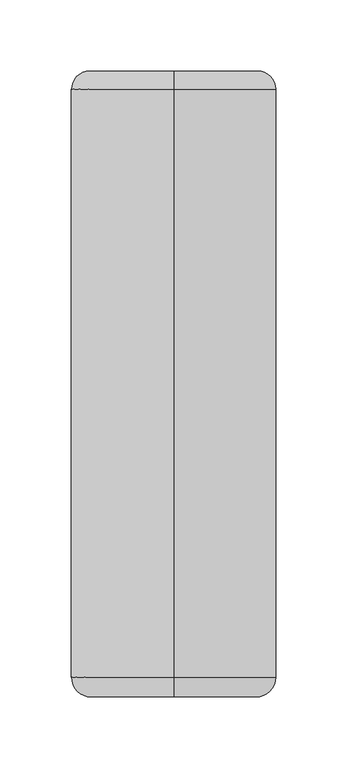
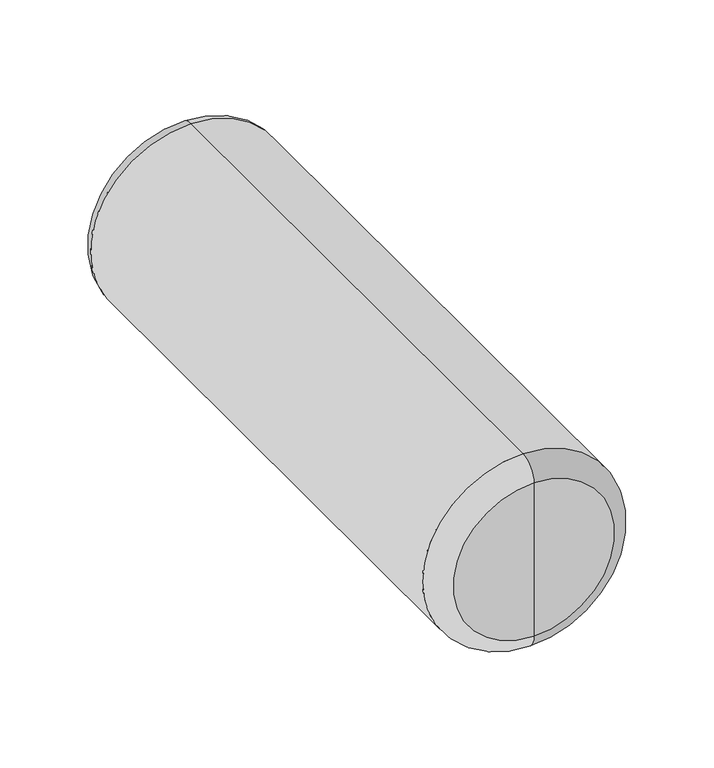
"""IFC4 building model written with IfcOpenShell, lengths in millimetres: furniture geometry, Steelcase Coalesse - Switch - Seating - Arm Bolster : Arm Bolster."""

from ifc_helpers import new_model, si_unit, point, frame, origin, place, context, project, spatial, circle_curve, ellipse_curve, trimmed, source, transform, mapped, element, save
from ifc_brep_helpers import plane_surface, cylinder_surface, revolved_surface, advanced_brep


def furniture_fab9fd42(model_context):
    return source(origin(), model_context, "Body", "AdvancedBrep", [
        advanced_brep(
        [(69.6799823, -0.4662275, 14.91323), (69.6799823, -0.4662275, 133.6918729), (69.6799823, -0.4662275, 74.3025515), (69.6799823, -13.1662275, 2.21323), (69.6799823, -13.1662275, 146.3918729), (69.6799823, -426.7380611, 2.21323), (69.6799823, -426.7380611, 146.3918729), (69.6799823, -440.5213438, 15.9965127), (69.6799823, -440.5213438, 132.6085903), (69.6799823, -440.5213438, 74.3025515)],
        [
            (0, 1, circle_curve(frame((69.6799823, -0.4662275, 74.3025515), z_axis=(0.0, 1.0, 0.0), x_axis=(0.0, 0.0, 1.0)), 59.3893214)),
            (1, 2),
            (2, 0),
            (1, 0, circle_curve(frame((69.6799823, -0.4662275, 74.3025515), z_axis=(0.0, 1.0, 0.0), x_axis=(0.0, 0.0, 1.0)), 59.3893214)),
            (3, 4, circle_curve(frame((69.6799823, -13.1662275, 74.3025515), z_axis=(0.0, 1.0, 0.0), x_axis=(0.0, 0.0, 1.0)), 72.0893214)),
            (4, 1, circle_curve(frame((69.6799823, -13.1662275, 133.6918729), z_axis=(-1.0, 0.0, 0.0), x_axis=(0.0, -1.0, 0.0)), 12.7)),
            (0, 3, circle_curve(frame((69.6799823, -13.1662275, 14.91323), z_axis=(-1.0, 0.0, 0.0), x_axis=(0.0, -1.0, 0.0)), 12.7)),
            (4, 3, circle_curve(frame((69.6799823, -13.1662275, 74.3025515), z_axis=(0.0, 1.0, 0.0), x_axis=(0.0, 0.0, 1.0)), 72.0893214)),
            (5, 6, circle_curve(frame((69.6799823, -426.7380611, 74.3025515), z_axis=(0.0, 1.0, 0.0), x_axis=(0.0, 0.0, 1.0)), 72.0893214)),
            (6, 4),
            (3, 5),
            (6, 5, circle_curve(frame((69.6799823, -426.7380611, 74.3025515), z_axis=(0.0, 1.0, 0.0), x_axis=(0.0, 0.0, 1.0)), 72.0893214)),
            (7, 8, circle_curve(frame((69.6799823, -440.5213438, 74.3025515), z_axis=(0.0, 1.0, 0.0), x_axis=(0.0, 0.0, 1.0)), 58.3060388)),
            (8, 6, circle_curve(frame((69.6799823, -426.7380611, 132.6085903), z_axis=(-1.0, 0.0, 0.0), x_axis=(0.0, -1.0, 0.0)), 13.7832827)),
            (5, 7, circle_curve(frame((69.6799823, -426.7380611, 15.9965127), z_axis=(-1.0, 0.0, 0.0), x_axis=(0.0, -1.0, 0.0)), 13.7832827)),
            (8, 7, circle_curve(frame((69.6799823, -440.5213438, 74.3025515), z_axis=(0.0, 1.0, 0.0), x_axis=(0.0, 0.0, 1.0)), 58.3060388)),
            (9, 8),
            (7, 9),
        ],
        [
            plane_surface(frame((69.6799823, -0.4662275, 74.3025515), z_axis=(0.0, 1.0, 0.0), x_axis=(0.0, 0.0, 1.0))),
            revolved_surface(trimmed(ellipse_curve(frame((69.6799823, -13.1662275, 133.6918729), z_axis=(1.0, 0.0, 0.0), x_axis=(0.0, -1.0, 0.0)), 12.7, 12.7), [point((69.6799823, -0.4662275, 133.6918729))], [point((69.6799823, -13.1662275, 146.3918729))], True, "CARTESIAN"), (69.6799823, -0.4662275, 74.3025515), (0.0, -1.0, 0.0)),
            cylinder_surface(frame((69.6799823, -0.4662275, 74.3025515), z_axis=(0.0, -1.0, 0.0), x_axis=(0.0, 0.0, 1.0)), 72.0893214),
            revolved_surface(trimmed(ellipse_curve(frame((69.6799823, -426.7380611, 132.6085903), z_axis=(1.0, 0.0, 0.0), x_axis=(0.0, -1.0, 0.0)), 13.7832827, 13.7832827), [point((69.6799823, -426.7380611, 146.3918729))], [point((69.6799823, -440.5213438, 132.6085903))], True, "CARTESIAN"), (69.6799823, -0.4662275, 74.3025515), (0.0, -1.0, 0.0)),
            plane_surface(frame((69.6799823, -440.5213438, 74.3025515), z_axis=(0.0, -1.0, 0.0), x_axis=(0.0, 0.0, 1.0))),
        ],
        [
            (0, [[1, 2, 3]]),
            (0, [[4, -3, -2]]),
            (1, [[5, 6, -1, 7]]),
            (1, [[8, -7, -4, -6]]),
            (2, [[9, 10, -5, 11]]),
            (2, [[12, -11, -8, -10]]),
            (3, [[13, 14, -9, 15]]),
            (3, [[16, -15, -12, -14]]),
            (4, [[17, -13, 18]]),
            (4, [[-18, -16, -17]]),
        ],
    ),
    ])


if __name__ == "__main__":
    model = new_model("IFC4")
    model_context = context("Model", 3, world=origin())
    ifc_project = project(units=[si_unit("LENGTHUNIT", "METRE", prefix="MILLI")], contexts=[model_context])
    site = spatial("IfcSite", under=ifc_project)
    building = spatial("IfcBuilding", under=site)
    placement = place(None, origin())
    furniture_shape = furniture_fab9fd42(model_context)
    element("IfcFurniture", 1, ObjectType="Steelcase Coalesse - Switch - Seating - Arm Bolster : Arm Bolster", at=placement, inside=building, context=model_context, shape_type="MappedRepresentation", body=[
        mapped(furniture_shape, transform((0.0, 0.0, 0.0), x_axis=(1.0, 0.0, 0.0), y_axis=(0.0, 1.0, 0.0), z_axis=(0.0, 0.0, 1.0))),
    ])
    save(model, "model.ifc")
